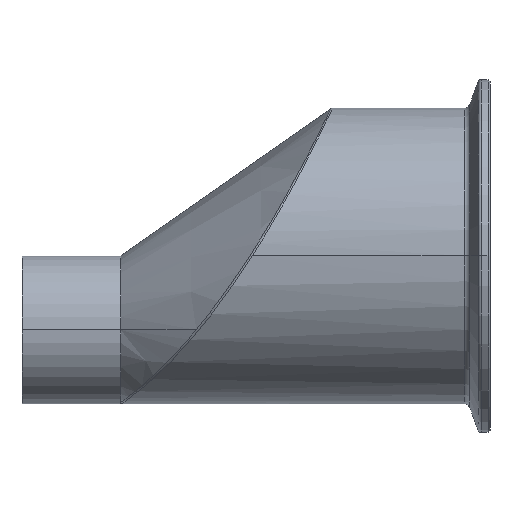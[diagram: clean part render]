
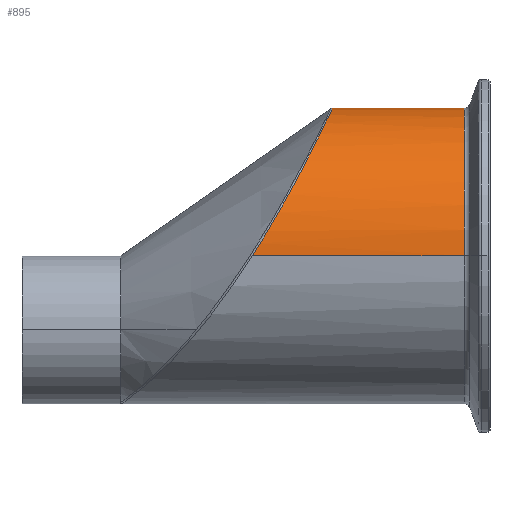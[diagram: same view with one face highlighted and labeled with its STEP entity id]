
A CAD part, top view. The second image highlights one B-rep face of the part: STEP entity #895.
In plain terms, the highlighted cylindrical face has radius 38.1 mm (diameter 76.2 mm), a partial arc.
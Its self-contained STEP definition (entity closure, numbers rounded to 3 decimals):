
#40 = VERTEX_POINT ( 'NONE', #1752 ) ;
#80 = LINE ( 'NONE', #423, #970 ) ;
#115 = ORIENTED_EDGE ( 'NONE', *, *, #270, .F. ) ;
#206 = CARTESIAN_POINT ( 'NONE',  ( -47.684, 0., 0. ) ) ;
#210 = CARTESIAN_POINT ( 'NONE',  ( 10.132, 18.995, 33.033 ) ) ;
#227 = CARTESIAN_POINT ( 'NONE',  ( 53.661, 0., 0. ) ) ;
#237 = DIRECTION ( 'NONE',  ( -1., 0., 0. ) ) ;
#240 = CARTESIAN_POINT ( 'NONE',  ( 9.268, 17.395, 33.902 ) ) ;
#270 = EDGE_CURVE ( 'NONE', #1179, #2210, #2158, .T. ) ;
#394 = DIRECTION ( 'NONE',  ( -1., 0., 0. ) ) ;
#423 = CARTESIAN_POINT ( 'NONE',  ( -47.684, 0., -38.1 ) ) ;
#535 = CARTESIAN_POINT ( 'NONE',  ( -47.684, 0., 38.1 ) ) ;
#623 = CARTESIAN_POINT ( 'NONE',  ( 7.781, 14.685, 35.176 ) ) ;
#628 = VERTEX_POINT ( 'NONE', #774 ) ;
#644 = CARTESIAN_POINT ( 'NONE',  ( 1.877, 4.489, -37.905 ) ) ;
#648 = EDGE_CURVE ( 'NONE', #628, #2210, #898, .T. ) ;
#652 = CARTESIAN_POINT ( 'NONE',  ( 6.543, 12.473, 36.02 ) ) ;
#774 = CARTESIAN_POINT ( 'NONE',  ( -0.927, 0., -38.1 ) ) ;
#779 = EDGE_LOOP ( 'NONE', ( #1079, #1548, #2016, #115 ) ) ;
#782 = CARTESIAN_POINT ( 'NONE',  ( 9.558, 17.931, 33.622 ) ) ;
#789 = DIRECTION ( 'NONE',  ( 0., 0., 1. ) ) ;
#794 = CARTESIAN_POINT ( 'NONE',  ( 4.604, 9.093, 37.018 ) ) ;
#830 = CARTESIAN_POINT ( 'NONE',  ( 0.506, 2.254, 38.1 ) ) ;
#862 = CARTESIAN_POINT ( 'NONE',  ( -0.927, 0., -38.1 ) ) ;
#892 = EDGE_CURVE ( 'NONE', #40, #628, #80, .T. ) ;
#895 = ADVANCED_FACE ( 'NONE', ( #1934 ), #1399, .T. ) ;
#898 = B_SPLINE_CURVE_WITH_KNOTS ( 'NONE', 3,
 ( #862, #1754, #644, #1511, #1530, #1541, #1546, #1553, #1570, #1576, #1583, #1589, #1594, #1600, #1708, #1715, #1738, #1746, #1763, #1774, #1862, #1885, #1893, #1903, #1911, #1917, #1927, #1936, #1956, #1960, #2046, #2055, #2082, #2097, #2104, #2128, #2134, #2219, #2233, #2244, #2250, #2261, #2276, #2285, #2292, #2298, #2312, #2317, #210, #782, #240, #2075, #623, #652, #1217, #794, #999, #1169, #830, #1227 ),
 .UNSPECIFIED., .F., .F.,
 ( 4, 2, 2, 2, 2, 2, 2, 2, 2, 2, 2, 2, 2, 2, 2, 2, 2, 2, 2, 2, 2, 2, 2, 2, 2, 2, 2, 2, 2, 4 ),
 ( 0.066, 0.074, 0.078, 0.082, 0.09, 0.094, 0.098, 0.106, 0.108, 0.11, 0.114, 0.123, 0.125, 0.127, 0.131, 0.135, 0.137, 0.139, 0.147, 0.151, 0.155, 0.159, 0.163, 0.171, 0.173, 0.175, 0.179, 0.183, 0.187, 0.195 ),
 .UNSPECIFIED. ) ;
#970 = VECTOR ( 'NONE', #394, 1000. ) ;
#999 = CARTESIAN_POINT ( 'NONE',  ( 3.933, 7.946, 37.28 ) ) ;
#1040 = EDGE_CURVE ( 'NONE', #1179, #40, #1698, .T. ) ;
#1079 = ORIENTED_EDGE ( 'NONE', *, *, #1040, .T. ) ;
#1169 = CARTESIAN_POINT ( 'NONE',  ( 1.899, 4.524, 37.901 ) ) ;
#1179 = VERTEX_POINT ( 'NONE', #1543 ) ;
#1197 = AXIS2_PLACEMENT_3D ( 'NONE', #206, #1408, #1245 ) ;
#1217 = CARTESIAN_POINT ( 'NONE',  ( 5.907, 11.355, 36.388 ) ) ;
#1227 = CARTESIAN_POINT ( 'NONE',  ( -0.927, 0., 38.1 ) ) ;
#1231 = VECTOR ( 'NONE', #1454, 1000. ) ;
#1245 = DIRECTION ( 'NONE',  ( 0., 0., 1. ) ) ;
#1399 = CYLINDRICAL_SURFACE ( 'NONE', #1197, 38.1 ) ;
#1408 = DIRECTION ( 'NONE',  ( -1., 0., 0. ) ) ;
#1417 = AXIS2_PLACEMENT_3D ( 'NONE', #227, #237, #789 ) ;
#1454 = DIRECTION ( 'NONE',  ( -1., 0., 0. ) ) ;
#1511 = CARTESIAN_POINT ( 'NONE',  ( 3.905, 7.899, -37.29 ) ) ;
#1530 = CARTESIAN_POINT ( 'NONE',  ( 4.576, 9.045, -37.029 ) ) ;
#1541 = CARTESIAN_POINT ( 'NONE',  ( 5.876, 11.3, -36.404 ) ) ;
#1543 = CARTESIAN_POINT ( 'NONE',  ( 53.661, 0., 38.1 ) ) ;
#1546 = CARTESIAN_POINT ( 'NONE',  ( 6.509, 12.414, -36.04 ) ) ;
#1548 = ORIENTED_EDGE ( 'NONE', *, *, #892, .T. ) ;
#1553 = CARTESIAN_POINT ( 'NONE',  ( 8.356, 15.709, -34.79 ) ) ;
#1570 = CARTESIAN_POINT ( 'NONE',  ( 9.52, 17.845, -33.749 ) ) ;
#1576 = CARTESIAN_POINT ( 'NONE',  ( 11.173, 20.945, -31.849 ) ) ;
#1583 = CARTESIAN_POINT ( 'NONE',  ( 11.708, 21.961, -31.159 ) ) ;
#1589 = CARTESIAN_POINT ( 'NONE',  ( 12.745, 23.951, -29.657 ) ) ;
#1594 = CARTESIAN_POINT ( 'NONE',  ( 13.238, 24.907, -28.858 ) ) ;
#1600 = CARTESIAN_POINT ( 'NONE',  ( 14.643, 27.656, -26.324 ) ) ;
#1698 = CIRCLE ( 'NONE', #1417, 38.1 ) ;
#1708 = CARTESIAN_POINT ( 'NONE',  ( 15.482, 29.333, -24.449 ) ) ;
#1715 = CARTESIAN_POINT ( 'NONE',  ( 16.412, 31.214, -21.856 ) ) ;
#1738 = CARTESIAN_POINT ( 'NONE',  ( 16.592, 31.579, -21.325 ) ) ;
#1746 = CARTESIAN_POINT ( 'NONE',  ( 16.94, 32.287, -20.237 ) ) ;
#1752 = CARTESIAN_POINT ( 'NONE',  ( 53.661, 0., -38.1 ) ) ;
#1754 = CARTESIAN_POINT ( 'NONE',  ( 0.494, 2.234, -38.1 ) ) ;
#1763 = CARTESIAN_POINT ( 'NONE',  ( 17.108, 32.631, -19.678 ) ) ;
#1774 = CARTESIAN_POINT ( 'NONE',  ( 17.588, 33.617, -17.979 ) ) ;
#1862 = CARTESIAN_POINT ( 'NONE',  ( 17.877, 34.213, -16.816 ) ) ;
#1885 = CARTESIAN_POINT ( 'NONE',  ( 18.653, 35.821, -13.241 ) ) ;
#1893 = CARTESIAN_POINT ( 'NONE',  ( 19.049, 36.653, -10.742 ) ) ;
#1903 = CARTESIAN_POINT ( 'NONE',  ( 19.389, 37.368, -7.463 ) ) ;
#1911 = CARTESIAN_POINT ( 'NONE',  ( 19.449, 37.494, -6.8 ) ) ;
#1917 = CARTESIAN_POINT ( 'NONE',  ( 19.551, 37.71, -5.476 ) ) ;
#1927 = CARTESIAN_POINT ( 'NONE',  ( 19.594, 37.801, -4.813 ) ) ;
#1934 = FACE_OUTER_BOUND ( 'NONE', #779, .T. ) ;
#1936 = CARTESIAN_POINT ( 'NONE',  ( 19.697, 38.019, -2.822 ) ) ;
#1956 = CARTESIAN_POINT ( 'NONE',  ( 19.733, 38.094, -1.491 ) ) ;
#1960 = CARTESIAN_POINT ( 'NONE',  ( 19.738, 38.105, 1.177 ) ) ;
#2016 = ORIENTED_EDGE ( 'NONE', *, *, #648, .T. ) ;
#2046 = CARTESIAN_POINT ( 'NONE',  ( 19.708, 38.041, 2.515 ) ) ;
#2055 = CARTESIAN_POINT ( 'NONE',  ( 19.611, 37.836, 4.527 ) ) ;
#2075 = CARTESIAN_POINT ( 'NONE',  ( 8.385, 15.778, 34.701 ) ) ;
#2082 = CARTESIAN_POINT ( 'NONE',  ( 19.57, 37.75, 5.198 ) ) ;
#2097 = CARTESIAN_POINT ( 'NONE',  ( 19.472, 37.543, 6.525 ) ) ;
#2104 = CARTESIAN_POINT ( 'NONE',  ( 19.415, 37.423, 7.182 ) ) ;
#2128 = CARTESIAN_POINT ( 'NONE',  ( 19.09, 36.738, 10.441 ) ) ;
#2134 = CARTESIAN_POINT ( 'NONE',  ( 18.703, 35.927, 12.959 ) ) ;
#2158 = LINE ( 'NONE', #535, #1231 ) ;
#2194 = CARTESIAN_POINT ( 'NONE',  ( -0.927, 0., 38.1 ) ) ;
#2210 = VERTEX_POINT ( 'NONE', #2194 ) ;
#2219 = CARTESIAN_POINT ( 'NONE',  ( 17.928, 34.318, 16.602 ) ) ;
#2233 = CARTESIAN_POINT ( 'NONE',  ( 17.641, 33.725, 17.775 ) ) ;
#2244 = CARTESIAN_POINT ( 'NONE',  ( 17.012, 32.434, 20.034 ) ) ;
#2250 = CARTESIAN_POINT ( 'NONE',  ( 16.67, 31.736, 21.121 ) ) ;
#2261 = CARTESIAN_POINT ( 'NONE',  ( 15.931, 30.24, 23.213 ) ) ;
#2276 = CARTESIAN_POINT ( 'NONE',  ( 15.533, 29.44, 24.218 ) ) ;
#2285 = CARTESIAN_POINT ( 'NONE',  ( 14.683, 27.744, 26.144 ) ) ;
#2292 = CARTESIAN_POINT ( 'NONE',  ( 14.236, 26.86, 27.051 ) ) ;
#2298 = CARTESIAN_POINT ( 'NONE',  ( 12.83, 24.106, 29.611 ) ) ;
#2312 = CARTESIAN_POINT ( 'NONE',  ( 11.807, 22.138, 31.106 ) ) ;
#2317 = CARTESIAN_POINT ( 'NONE',  ( 10.415, 19.524, 32.723 ) ) ;
